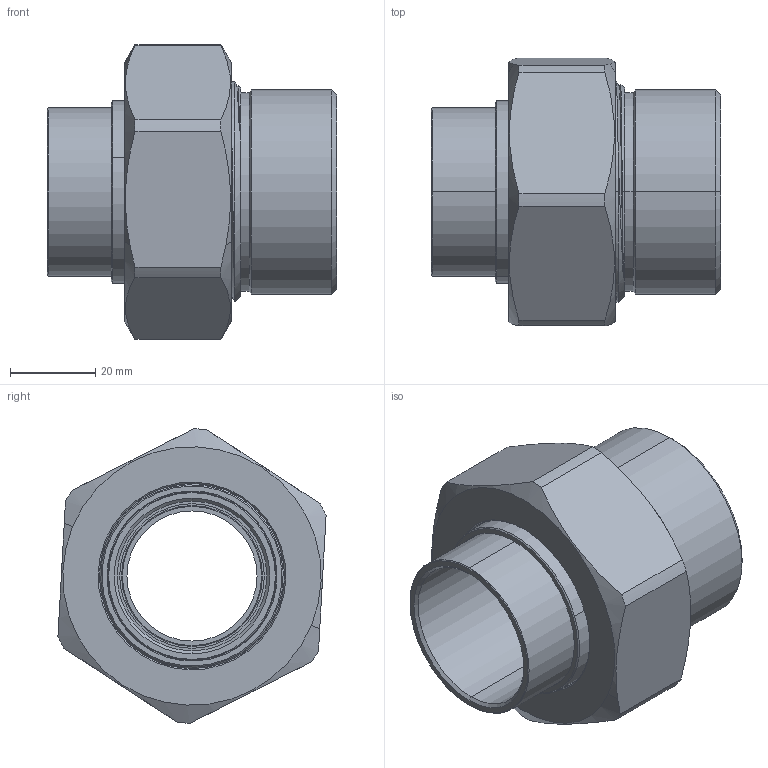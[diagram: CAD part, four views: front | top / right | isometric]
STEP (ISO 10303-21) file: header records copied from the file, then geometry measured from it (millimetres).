
FILE_DESCRIPTION(('Open CASCADE Model'),'2;1');
FILE_NAME('Open CASCADE Shape Model','2022-04-19T10:13:51',('Author'),( 'Open CASCADE'),'Open CASCADE STEP processor 7.3','Open CASCADE 7.3' ,'Unknown');
FILE_SCHEMA(('AUTOMOTIVE_DESIGN { 1 0 10303 214 1 1 1 1 }'));
Length unit declared in the file: millimetre
Products named in the file (6): Open CASCADE STEP translator 7.3 1; Open CASCADE STEP translator 7.3 1.1; Open CASCADE STEP translator 7.3 1.2; Open CASCADE STEP translator 7.3 1.3; Open CASCADE STEP translator 7.3 1.4; Open CASCADE STEP translator 7.3 1.5
Assembly tree (5 placements, depth 2):
  Open CASCADE STEP translator 7.3 1
    Open CASCADE STEP translator 7.3 1.1
    Open CASCADE STEP translator 7.3 1.2
    Open CASCADE STEP translator 7.3 1.3
    Open CASCADE STEP translator 7.3 1.4
    Open CASCADE STEP translator 7.3 1.5
Bounding box: 67.8 x 62.87 x 69 mm (x, y, z)
Volume: 75245.3 mm3; surface area: 44471.7 mm2
Topology: 5 solids, 5 shells, 157 faces, 384 edges, 244 vertices
Faces by surface type: cone 64, cylinder 58, plane 25, bspline 6, torus 4
Entity records: 28217 total; most frequent: CARTESIAN_POINT 20995, DIRECTION 1179, ORIENTED_EDGE 768, PCURVE 768, DEFINITIONAL_REPRESENTATION 768, LINE 575, VECTOR 575, EDGE_CURVE 384
